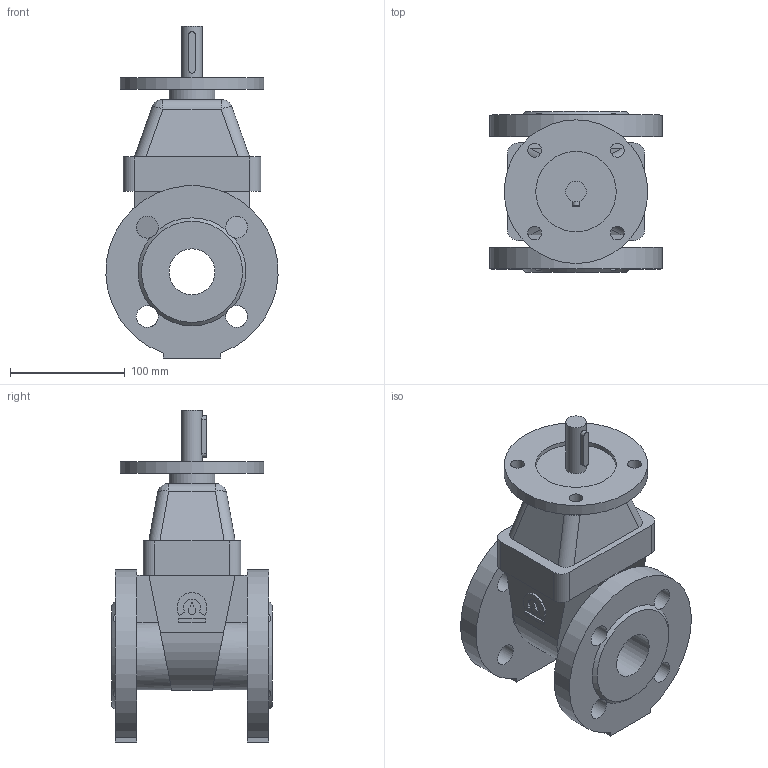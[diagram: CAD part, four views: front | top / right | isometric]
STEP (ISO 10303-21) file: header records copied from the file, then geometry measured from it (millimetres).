
FILE_DESCRIPTION(('STEP AP203'), '1');
FILE_NAME('Çàäâèæêà 47GVA DN40 PN10_PN16 áåç èñïîëíèò. ìåõ.', '', ('UNSPECIFIED'), ('UNSPECIFIED'), 'ASCON STEP Converter 1.6', 'ASCON Math Kernel', '');
FILE_SCHEMA(('CONFIG_CONTROL_DESIGN'));
Length unit declared in the file: millimetre
Bounding box: 149.87 x 140 x 289 mm (x, y, z)
Volume: 1859605.5 mm3; surface area: 204689 mm2
Topology: 1 solids, 1 shells, 102 faces, 271 edges, 172 vertices
Faces by surface type: plane 53, cylinder 43, bspline 4, cone 2
Full cylindrical faces by diameter (mm): 12 x4, 18 x1, 19 x8, 40 x2, 70 x1, 125 x1
Entity records: 5093 total; most frequent: CARTESIAN_POINT 1728, DIRECTION 520, ORIENTED_EDGE 496, EDGE_CURVE 248, AXIS2_PLACEMENT_3D 195, VERTEX_POINT 172, EDGE_LOOP 152, LINE 130
